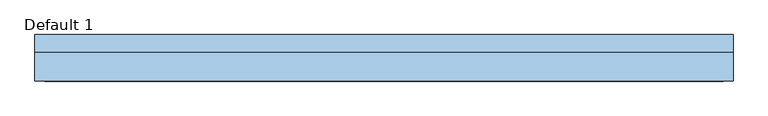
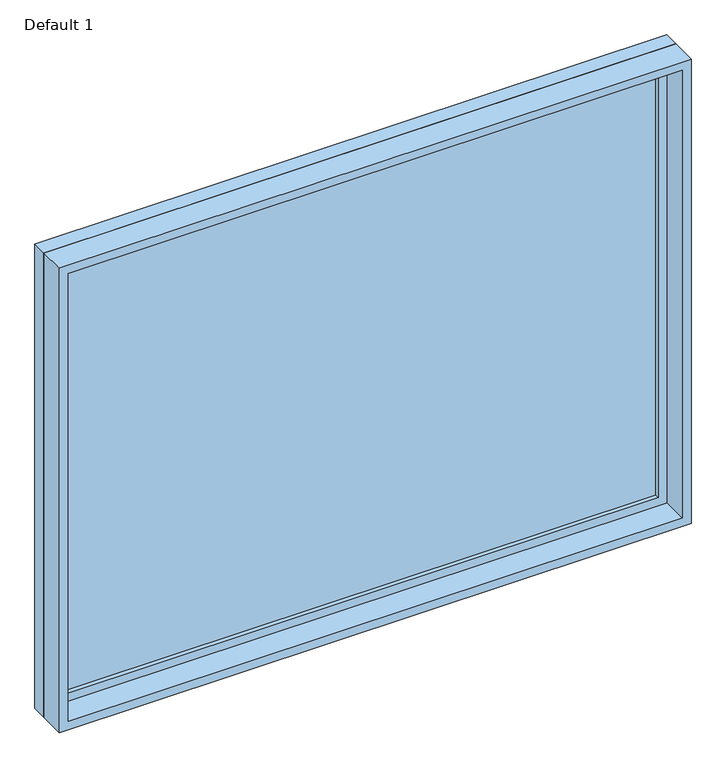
"""IFC4 building model written with IfcOpenShell, lengths in millimetres: window geometry, Planitar-Fixed : Default 1."""

import ifcopenshell
import ifcopenshell.guid

model = None  # the IFC model being written
_history = None  # IfcOwnerHistory: only IFC2X3 demands one
_inside = {}  # id of a spatial element -> (the spatial element, [elements in it])
_under = {}  # id of a project, library or spatial element -> (it, [spatial elements below it])
_declared = {}  # id of a project -> (the project, [libraries it declares])
_typed = {}  # id of a type object -> (the type object, [elements of that type])
_made_of = {}  # id of a material, layer set ... -> (it, [elements and type objects made of it])


def new_model(schema):
    """Start an empty IFC model of exactly this schema.

    Asked for "IFC4X3", IfcOpenShell would pick the latest addendum, in which some entities
    have other attributes; the version numbers below select the first issue.
    IFC2X3 requires an IfcOwnerHistory on every rooted entity: one is made here for all.
    """
    global model, _history
    if schema == "IFC4X3":
        model = ifcopenshell.file(schema_version=(4, 3, 0, 0))
    else:
        model = ifcopenshell.file(schema=schema)
    _inside.clear()
    _under.clear()
    _declared.clear()
    _typed.clear()
    _made_of.clear()
    _history = None
    if model.schema == "IFC2X3":
        org = make("IfcOrganization", Name="unknown")
        user = make(
            "IfcPersonAndOrganization",
            ThePerson=make("IfcPerson", FamilyName="unknown"),
            TheOrganization=org,
        )
        app = make(
            "IfcApplication",
            ApplicationDeveloper=org,
            Version="unknown",
            ApplicationFullName="unknown",
            ApplicationIdentifier="unknown",
        )
        _history = make(
            "IfcOwnerHistory",
            OwningUser=user,
            OwningApplication=app,
            ChangeAction="ADDED",
            CreationDate=0,
        )
    return model


def make(cls, **values):
    """One entity of the class cls with the attributes given. An attribute that is None is left unset."""
    return model.create_entity(
        cls, **{name: value for name, value in values.items() if value is not None}
    )


def rooted(cls, **values):
    """An entity with a GlobalId (a new one), such as an element, a storey or a relation."""
    return make(cls, GlobalId=ifcopenshell.guid.new(), OwnerHistory=_history, **values)


def si_unit(unit_type, name, prefix=None):
    """IfcSIUnit, for example si_unit("LENGTHUNIT", "METRE", prefix="MILLI")."""
    return make("IfcSIUnit", UnitType=unit_type, Prefix=prefix, Name=name)


def assignment(units):
    """IfcUnitAssignment: the units of a project."""
    return None if units is None else make("IfcUnitAssignment", Units=units)


def point(xyz):
    """IfcCartesianPoint."""
    return None if xyz is None else make("IfcCartesianPoint", Coordinates=xyz)


def direction(xyz):
    """IfcDirection."""
    return None if xyz is None else make("IfcDirection", DirectionRatios=xyz)


def frame(location, z_axis=None, x_axis=None):
    """IfcAxis2Placement3D, a coordinate frame: its origin and axes. An axis left out is left unset."""
    return make(
        "IfcAxis2Placement3D",
        Location=point(location),
        Axis=direction(z_axis),
        RefDirection=direction(x_axis),
    )


def origin():
    """The frame at (0, 0, 0) with its axes left unset."""
    return frame((0.0, 0.0, 0.0))


def place(relative_to, where):
    """IfcLocalPlacement: puts the frame where relative to a parent placement (None: the world)."""
    return make(
        "IfcLocalPlacement", PlacementRelTo=relative_to, RelativePlacement=where
    )


def context(
    kind, dimensions, precision=None, world=None, true_north=None, identifier=None
):
    """IfcGeometricRepresentationContext, for example the 3D "Model" context."""
    return make(
        "IfcGeometricRepresentationContext",
        ContextIdentifier=identifier,
        ContextType=kind,
        CoordinateSpaceDimension=dimensions,
        Precision=precision,
        WorldCoordinateSystem=world,
        TrueNorth=true_north,
    )


def project(units=None, contexts=None):
    """IfcProject with its units and contexts."""
    return rooted(
        "IfcProject",
        Name="project",
        RepresentationContexts=contexts,
        UnitsInContext=assignment(units),
    )


def spatial(cls, under=None, at=None, **own):
    """A site, building, storey or space (cls), placed at a placement, below another one or the project."""
    s = rooted(cls, ObjectPlacement=at, **own)
    if under is not None:
        _under.setdefault(under.id(), (under, []))[1].append(s)
    return s


def polyline(points):
    """IfcPolyline through the points."""
    return make("IfcPolyline", Points=[point(p) for p in points])


def outline(outer, holes=None, kind="AREA"):
    """IfcArbitraryClosedProfileDef: a profile drawn as a closed curve; with holes, ...WithVoids."""
    if holes is None:
        return make("IfcArbitraryClosedProfileDef", ProfileType=kind, OuterCurve=outer)
    return make(
        "IfcArbitraryProfileDefWithVoids",
        ProfileType=kind,
        OuterCurve=outer,
        InnerCurves=holes,
    )


def extrude(swept, where, along, depth):
    """IfcExtrudedAreaSolid: the profile swept, set in the frame where, extruded along a direction by depth."""
    return make(
        "IfcExtrudedAreaSolid",
        SweptArea=swept,
        Position=where,
        ExtrudedDirection=direction(along),
        Depth=depth,
    )


def shape(context_of_items, identifier, shape_type, items):
    """IfcShapeRepresentation: the items that make up one representation, for example the "Body"."""
    return make(
        "IfcShapeRepresentation",
        ContextOfItems=context_of_items,
        RepresentationIdentifier=identifier,
        RepresentationType=shape_type,
        Items=items,
    )


def source(mapping_origin, context_of_items, identifier, shape_type, items):
    """IfcRepresentationMap: a shape defined once, which mapped items show again and again."""
    return make(
        "IfcRepresentationMap",
        MappingOrigin=mapping_origin,
        MappedRepresentation=shape(context_of_items, identifier, shape_type, items),
    )


def transform(
    local_origin,
    x_axis=None,
    y_axis=None,
    z_axis=None,
    scale=None,
    scale2=None,
    scale3=None,
    uniform=True,
):
    """IfcCartesianTransformationOperator3D, or its non-uniform kind. x_axis, y_axis, z_axis: its Axis1, 2, 3."""
    if uniform:
        return make(
            "IfcCartesianTransformationOperator3D",
            Axis1=direction(x_axis),
            Axis2=direction(y_axis),
            LocalOrigin=point(local_origin),
            Scale=scale,
            Axis3=direction(z_axis),
        )
    return make(
        "IfcCartesianTransformationOperator3DnonUniform",
        Axis1=direction(x_axis),
        Axis2=direction(y_axis),
        LocalOrigin=point(local_origin),
        Scale=scale,
        Axis3=direction(z_axis),
        Scale2=scale2,
        Scale3=scale3,
    )


def mapped(mapping_source, mapping_target):
    """IfcMappedItem: shows the shape of a source again, moved by a transform."""
    return make(
        "IfcMappedItem", MappingSource=mapping_source, MappingTarget=mapping_target
    )


def made_of(thing, what):
    """Note that an element or type object is made of a material, layer set ...; save() writes the relation."""
    if what is not None:
        _made_of.setdefault(what.id(), (what, []))[1].append(thing)
    return thing


def element(
    cls,
    number,
    at=None,
    inside=None,
    cuts=None,
    type_object=None,
    material=None,
    context=None,
    identifier="Body",
    shape_type=None,
    held_by="IfcProductDefinitionShape",
    body=None,
    shapes=None,
    **own,
):
    """One element of the class cls, such as IfcWall. Its Tag is "e" and its number.

    at: its placement. inside: the storey or other place that contains it. cuts: it is an
    opening in that element (IfcRelVoidsElement). A single representation is given by context,
    identifier, shape_type and body (its items); several are given by shapes. held_by: the class
    of the entity that holds the representations. save() writes the other relations.
    """
    e = rooted(cls, Tag="e%d" % number, ObjectPlacement=at, **own)
    if body is not None:
        shapes = [shape(context, identifier, shape_type, body)]
    if shapes is not None:
        e.Representation = make(held_by, Representations=shapes)
    if inside is not None:
        _inside.setdefault(inside.id(), (inside, []))[1].append(e)
    if cuts is not None:
        rooted(
            "IfcRelVoidsElement", RelatingBuildingElement=cuts, RelatedOpeningElement=e
        )
    if type_object is not None:
        _typed.setdefault(type_object.id(), (type_object, []))[1].append(e)
    return made_of(e, material)


def aggregate(whole, parts):
    """IfcRelAggregates: a whole, such as a stair, and the parts it consists of."""
    return rooted("IfcRelAggregates", RelatingObject=whole, RelatedObjects=parts)


def save(model, path):
    """Write the relations noted so far, then the file.

    IfcRelAggregates (storeys below a building ...), IfcRelContainedInSpatialStructure (elements
    in a storey), IfcRelDefinesByType, IfcRelAssociatesMaterial and IfcRelDeclares: one each for
    every whole, place, type object, material and project.
    """
    for whole, parts in _under.values():
        aggregate(whole, parts)
    for where, things in _inside.values():
        rooted(
            "IfcRelContainedInSpatialStructure",
            RelatedElements=things,
            RelatingStructure=where,
        )
    for kind, things in _typed.values():
        rooted("IfcRelDefinesByType", RelatedObjects=things, RelatingType=kind)
    for what, things in _made_of.values():
        rooted("IfcRelAssociatesMaterial", RelatedObjects=things, RelatingMaterial=what)
    for by, libraries in _declared.values():
        rooted("IfcRelDeclares", RelatingContext=by, RelatedDefinitions=libraries)
    model.write(path)


def default_1_00e0ac36(model_context):
    return source(origin(), model_context, "Body", "SweptSolid", [
        extrude(outline(polyline([(2673.4, -1124.0), (933.4, -1124.0), (933.4, 1124.0), (2673.4, 1124.0), (2673.4, -1124.0)]), holes=[polyline([(2629.4, -1080.0), (2629.4, 1080.0), (977.4, 1080.0), (977.4, -1080.0), (2629.4, -1080.0)])]), frame((0.0, 32.5, 0.0), z_axis=(0.0, 1.0, 0.0), x_axis=(0.0, 0.0, 1.0)), (0.0, 0.0, 1.0), 44.0),
        extrude(outline(polyline([(2692.4, -1143.0), (914.4, -1143.0), (914.4, 1143.0), (2692.4, 1143.0), (2692.4, -1143.0)]), holes=[polyline([(2673.4, -1124.0), (2673.4, 1124.0), (933.4, 1124.0), (933.4, -1124.0), (2673.4, -1124.0)])]), frame((0.0, 32.5, 0.0), z_axis=(0.0, 1.0, 0.0), x_axis=(0.0, 0.0, 1.0)), (0.0, 0.0, 1.0), 56.7),
        extrude(outline(polyline([(2692.4, -1143.0), (914.4, -1143.0), (914.4, 1143.0), (2692.4, 1143.0), (2692.4, -1143.0)]), holes=[polyline([(2660.4, -1111.0), (2660.4, 1111.0), (946.4, 1111.0), (946.4, -1111.0), (2660.4, -1111.0)])]), frame((0.0, -63.2, 0.0), z_axis=(0.0, 1.0, 0.0), x_axis=(0.0, 0.0, 1.0)), (0.0, 0.0, 1.0), 95.7),
        extrude(outline(polyline([(-1080.0, 60.5), (1080.0, 60.5), (1080.0, 48.5), (-1080.0, 48.5), (-1080.0, 60.5)])), frame((0.0, 0.0, 977.4), z_axis=(0.0, 0.0, 1.0), x_axis=(1.0, 0.0, 0.0)), (0.0, 0.0, 1.0), 1652.0),
    ])


if __name__ == "__main__":
    model = new_model("IFC4")
    model_context = context("Model", 3, world=origin())
    ifc_project = project(units=[si_unit("LENGTHUNIT", "METRE", prefix="MILLI")], contexts=[model_context])
    site = spatial("IfcSite", under=ifc_project)
    building = spatial("IfcBuilding", under=site)
    placement = place(None, origin())
    default_1_shape = default_1_00e0ac36(model_context)
    element("IfcWindow", 1, ObjectType="Planitar-Fixed : Default 1", at=placement, inside=building, context=model_context, shape_type="MappedRepresentation", body=[
        mapped(default_1_shape, transform((0.0, 0.0, 0.0), x_axis=(1.0, 0.0, 0.0), y_axis=(0.0, 1.0, 0.0), z_axis=(0.0, 0.0, 1.0))),
    ])
    save(model, "model.ifc")
